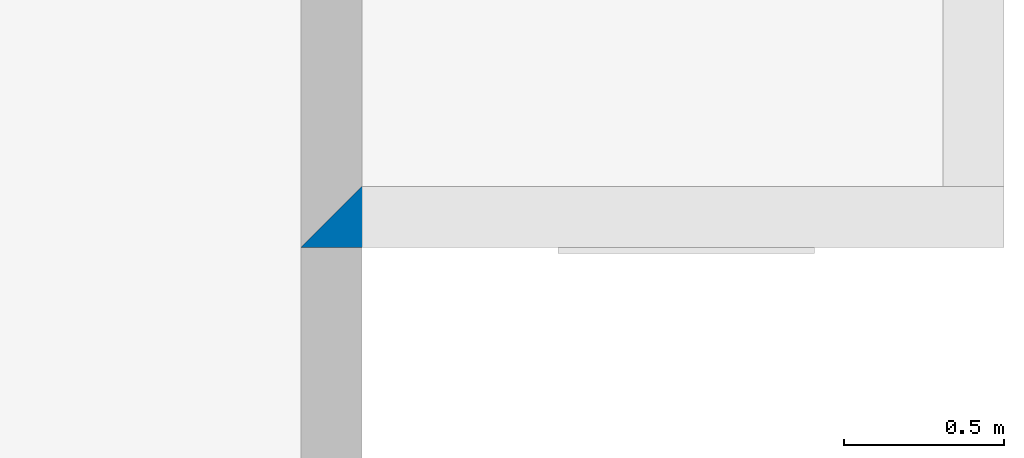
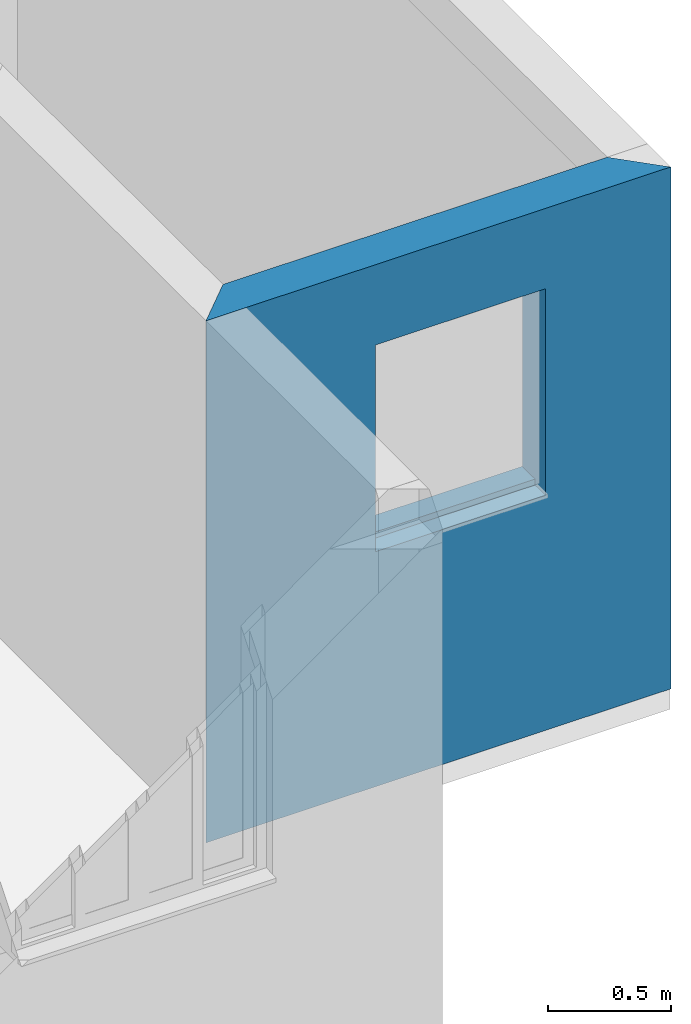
# One storey, part 19 of 47: 1 wall, 1 opening.
"""IFC2X3 building model written with IfcOpenShell, lengths in millimetres."""

from ifc_helpers import new_model, entity, si_unit, converted_unit, derived_unit, money_unit, direction, frame, origin_with_axes, origin_2d_with_axis, place, context, subcontext, project, spatial, polyline, rectangle, outline, extrude, material, layer, layer_set, layer_usage, type_object, element, save


model = new_model("IFC2X3")

# Units and contexts
model_context = context("Model", 3, precision=0.01, world=origin_with_axes(), true_north=direction((0.0, 1.0)))
body_context = subcontext(model_context, "Body", "Model", "MODEL_VIEW")
ifc_project = project(units=[si_unit("LENGTHUNIT", "METRE", prefix="MILLI"), si_unit("AREAUNIT", "SQUARE_METRE"), si_unit("VOLUMEUNIT", "CUBIC_METRE"), converted_unit("PLANEANGLEUNIT", "DEGREE", entity("IfcPlaneAngleMeasure", 0.0174532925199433), si_unit("PLANEANGLEUNIT", "RADIAN"), dimensions=[0, 0, 0, 0, 0, 0, 0]), money_unit("USD"), converted_unit("TIMEUNIT", "Year", entity("IfcTimeMeasure", 31557600.0), si_unit("TIMEUNIT", "SECOND"), dimensions=[0, 0, 1, 0, 0, 0, 0]), si_unit("MASSUNIT", "GRAM", prefix="KILO"), si_unit("THERMODYNAMICTEMPERATUREUNIT", "DEGREE_CELSIUS"), si_unit("LUMINOUSINTENSITYUNIT", "LUMEN"), si_unit("ENERGYUNIT", "JOULE", prefix="MEGA"), derived_unit("THERMALCONDUCTANCEUNIT", [(si_unit("POWERUNIT", "WATT"), 1), (si_unit("LENGTHUNIT", "METRE"), -1), (si_unit("THERMODYNAMICTEMPERATUREUNIT", "KELVIN"), -1)]), derived_unit("SPECIFICHEATCAPACITYUNIT", [(si_unit("ENERGYUNIT", "JOULE"), 1), (si_unit("MASSUNIT", "GRAM", prefix="KILO"), -1), (si_unit("THERMODYNAMICTEMPERATUREUNIT", "KELVIN"), -1)]), derived_unit("MASSDENSITYUNIT", [(si_unit("MASSUNIT", "GRAM", prefix="KILO"), 1), (si_unit("VOLUMEUNIT", "CUBIC_METRE"), -1)])], contexts=[model_context])

# Site, building, storey
site_placement = place(None, origin_with_axes())
site = spatial("IfcSite", under=ifc_project, at=site_placement, Name="Local", CompositionType="ELEMENT")
building_placement = place(site_placement, origin_with_axes())
building = spatial("IfcBuilding", under=site, at=building_placement, Name="Construção", CompositionType="ELEMENT")
storey_placement = place(building_placement, origin_with_axes())
storey = spatial("IfcBuildingStorey", under=building, at=storey_placement, Name="Pavimento Tipo", CompositionType="ELEMENT", Elevation=0.0)

# Wall, opening
ifc_material = material(Name="Concreto - Estrutural")
ifc_layer = layer(ifc_material, 190.0, ventilated="UNKNOWN")
ifc_layer_set = layer_set([ifc_layer], Name="Concreto - Estrutural 190")
ifc_layer_usage = layer_usage(ifc_layer_set, "AXIS2", "POSITIVE", 0.0)
wall_type = type_object("IfcWallType", Name="Concreto - Estrutural 190", PredefinedType="NOTDEFINED")
wall_placement = place(storey_placement, frame((6442.566997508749, -3.018582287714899, 0.0), z_axis=(0.0, 0.0, 1.0), x_axis=(1.0, 0.0, 0.0)))
wall = element("IfcWallStandardCase", 1, at=wall_placement, inside=storey, type_object=wall_type, material=ifc_layer_usage, Name="Apartamento 4 - Parede-087", context=body_context, shape_type="SweptSolid", body=[
    extrude(outline(polyline([(-190.0000000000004, 0.0), (1999.999999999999, 0.0), (1810.0, 190.0), (0.0, 190.0), (-190.0000000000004, 0.0)])), origin_with_axes(), (0.0, 0.0, 1.0), 2600.0),
])
opening_placement = place(wall_placement, frame((1009.999999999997, 0.0, 1200.0), z_axis=(0.0, 0.0, 1.0), x_axis=(1.0, 0.0, 0.0)))
element("IfcOpeningElement", 2, at=opening_placement, cuts=wall, Name="Apartamento 4 - J04", context=body_context, shape_type="SweptSolid", body=[
    extrude(rectangle(XDim=800.0000000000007, YDim=1000.0, at=origin_2d_with_axis()), frame((0.0, 50.0000000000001, 500.0), z_axis=(0.0, 1.0, 0.0), x_axis=(1.0, 0.0, 0.0)), (0.0, 0.0, 1.0), 330.0),
    extrude(rectangle(XDim=800.0000000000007, YDim=1000.0, at=origin_2d_with_axis()), frame((0.0, 50.00000000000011, 500.0), z_axis=(0.0, -1.0, 0.0), x_axis=(1.0, 0.0, 0.0)), (0.0, 0.0, 1.0), 240.0),
    extrude(rectangle(XDim=800.0000000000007, YDim=30.00000000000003, at=origin_2d_with_axis()), frame((0.0, 85.00000000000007, -15.00000000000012), z_axis=(0.0, -1.0, 0.0), x_axis=(1.0, 0.0, 0.0)), (0.0, 0.0, 1.0), 225.0),
])

save(model, "model.ifc")
